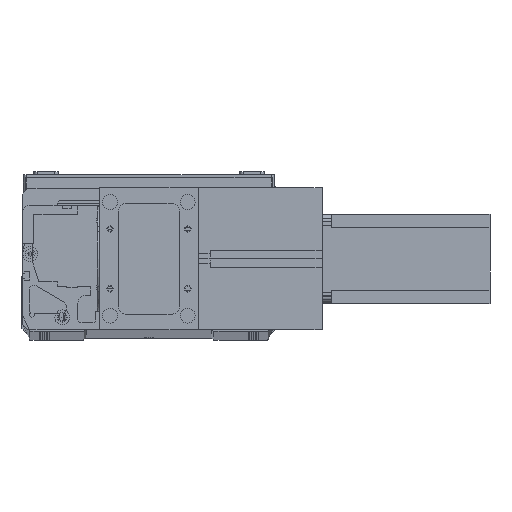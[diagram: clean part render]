
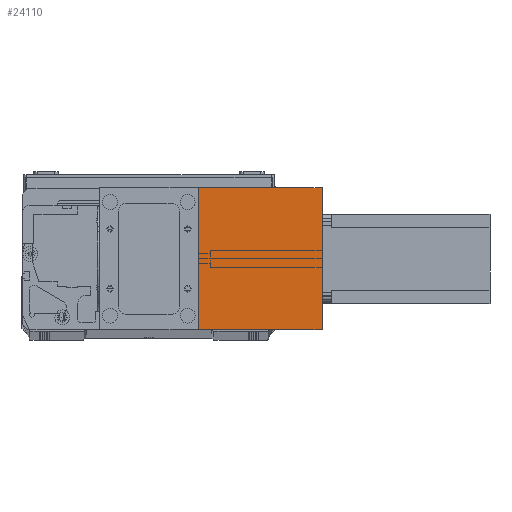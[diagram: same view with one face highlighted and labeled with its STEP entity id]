
A CAD part, top view. The second image highlights one B-rep face of the part: STEP entity #24110.
In plain terms, the highlighted planar face has unit normal (0, 0, 1) as drawn and (1, 0, 0) by its records, which use the part's own axes.
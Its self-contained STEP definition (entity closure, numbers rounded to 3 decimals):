
#832 = LINE ( 'NONE', #2282, #8332 ) ;
#928 = VERTEX_POINT ( 'NONE', #15064 ) ;
#1220 = CARTESIAN_POINT ( 'NONE',  ( 82., 0., 83. ) ) ;
#2033 = EDGE_LOOP ( 'NONE', ( #8107, #16899, #4992, #19369 ) ) ;
#2245 = DIRECTION ( 'NONE',  ( 0., 1., 0. ) ) ;
#2282 = CARTESIAN_POINT ( 'NONE',  ( 82., 0., 0. ) ) ;
#4114 = VERTEX_POINT ( 'NONE', #9162 ) ;
#4134 = CARTESIAN_POINT ( 'NONE',  ( 82., 0., 83. ) ) ;
#4992 = ORIENTED_EDGE ( 'NONE', *, *, #10161, .F. ) ;
#5117 = EDGE_CURVE ( 'NONE', #10732, #928, #13888, .T. ) ;
#6119 = VECTOR ( 'NONE', #29470, 1000. ) ;
#6293 = DIRECTION ( 'NONE',  ( 0., 0., 1. ) ) ;
#7704 = CARTESIAN_POINT ( 'NONE',  ( 82., 0., 0. ) ) ;
#8107 = ORIENTED_EDGE ( 'NONE', *, *, #12466, .T. ) ;
#8332 = VECTOR ( 'NONE', #2245, 1000. ) ;
#9162 = CARTESIAN_POINT ( 'NONE',  ( 82., 0., 83. ) ) ;
#9208 = DIRECTION ( 'NONE',  ( 0., 0., -1. ) ) ;
#10161 = EDGE_CURVE ( 'NONE', #4114, #10732, #18455, .T. ) ;
#10732 = VERTEX_POINT ( 'NONE', #12399 ) ;
#12399 = CARTESIAN_POINT ( 'NONE',  ( 82., 95., 83. ) ) ;
#12466 = EDGE_CURVE ( 'NONE', #16383, #928, #832, .T. ) ;
#12536 = CARTESIAN_POINT ( 'NONE',  ( 82., 95., 83. ) ) ;
#12560 = DIRECTION ( 'NONE',  ( 0., 0., -1. ) ) ;
#12913 = VECTOR ( 'NONE', #9208, 1000. ) ;
#13888 = LINE ( 'NONE', #12536, #19538 ) ;
#15064 = CARTESIAN_POINT ( 'NONE',  ( 82., 95., 0. ) ) ;
#16125 = PLANE ( 'NONE',  #22447 ) ;
#16383 = VERTEX_POINT ( 'NONE', #7704 ) ;
#16899 = ORIENTED_EDGE ( 'NONE', *, *, #5117, .F. ) ;
#18455 = LINE ( 'NONE', #22943, #6119 ) ;
#19326 = LINE ( 'NONE', #4134, #12913 ) ;
#19369 = ORIENTED_EDGE ( 'NONE', *, *, #27670, .T. ) ;
#19538 = VECTOR ( 'NONE', #12560, 1000. ) ;
#21007 = DIRECTION ( 'NONE',  ( -1., 0., 0. ) ) ;
#22447 = AXIS2_PLACEMENT_3D ( 'NONE', #1220, #21007, #6293 ) ;
#22943 = CARTESIAN_POINT ( 'NONE',  ( 82., 0., 83. ) ) ;
#24110 = ADVANCED_FACE ( 'NONE', ( #25487 ), #16125, .F. ) ;
#25487 = FACE_OUTER_BOUND ( 'NONE', #2033, .T. ) ;
#27670 = EDGE_CURVE ( 'NONE', #4114, #16383, #19326, .T. ) ;
#29470 = DIRECTION ( 'NONE',  ( 0., 1., 0. ) ) ;
